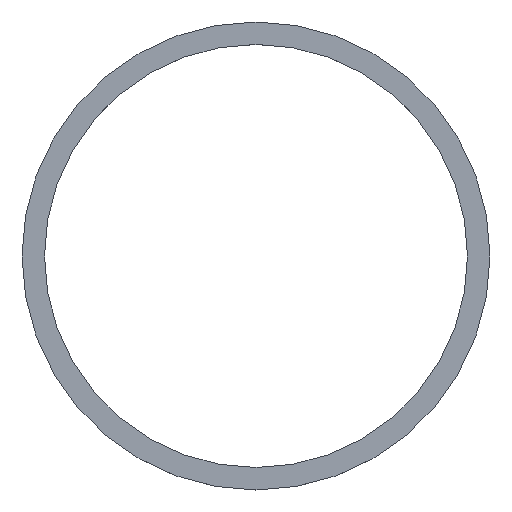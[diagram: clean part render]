
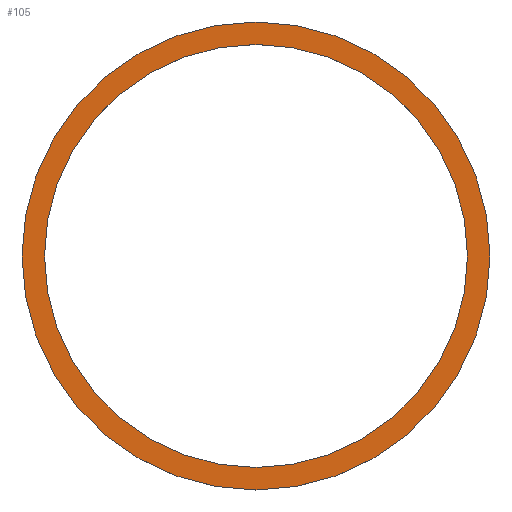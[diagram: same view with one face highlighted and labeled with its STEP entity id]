
A CAD part, top view. The second image highlights one B-rep face of the part: STEP entity #105.
In plain terms, the highlighted planar face has unit normal (0, 0, 1).
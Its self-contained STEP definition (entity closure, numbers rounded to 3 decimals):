
#21 = EDGE_CURVE('',#22,#22,#24,.T.);
#22 = VERTEX_POINT('',#23);
#23 = CARTESIAN_POINT('',(92.5,198.,76.));
#24 = SURFACE_CURVE('',#25,(#30,#42),.PCURVE_S1.);
#25 = CIRCLE('',#26,25.);
#26 = AXIS2_PLACEMENT_3D('',#27,#28,#29);
#27 = CARTESIAN_POINT('',(67.5,198.,76.));
#28 = DIRECTION('',(0.,0.,1.));
#29 = DIRECTION('',(1.,0.,-0.));
#30 = PCURVE('',#31,#36);
#31 = CYLINDRICAL_SURFACE('',#32,25.);
#32 = AXIS2_PLACEMENT_3D('',#33,#34,#35);
#33 = CARTESIAN_POINT('',(67.5,198.,75.));
#34 = DIRECTION('',(0.,0.,1.));
#35 = DIRECTION('',(1.,0.,-0.));
#36 = DEFINITIONAL_REPRESENTATION('',(#37),#41);
#37 = LINE('',#38,#39);
#38 = CARTESIAN_POINT('',(0.,1.));
#39 = VECTOR('',#40,1.);
#40 = DIRECTION('',(1.,0.));
#41 = ( GEOMETRIC_REPRESENTATION_CONTEXT(2) 
PARAMETRIC_REPRESENTATION_CONTEXT() REPRESENTATION_CONTEXT('2D SPACE',''
  ) );
#42 = PCURVE('',#43,#48);
#43 = PLANE('',#44);
#44 = AXIS2_PLACEMENT_3D('',#45,#46,#47);
#45 = CARTESIAN_POINT('',(67.5,198.,76.));
#46 = DIRECTION('',(0.,0.,1.));
#47 = DIRECTION('',(1.,0.,-0.));
#48 = DEFINITIONAL_REPRESENTATION('',(#49),#53);
#49 = CIRCLE('',#50,25.);
#50 = AXIS2_PLACEMENT_2D('',#51,#52);
#51 = CARTESIAN_POINT('',(0.,0.));
#52 = DIRECTION('',(1.,0.));
#53 = ( GEOMETRIC_REPRESENTATION_CONTEXT(2) 
PARAMETRIC_REPRESENTATION_CONTEXT() REPRESENTATION_CONTEXT('2D SPACE',''
  ) );
#105 = ADVANCED_FACE('',(#106,#109),#43,.T.);
#106 = FACE_BOUND('',#107,.T.);
#107 = EDGE_LOOP('',(#108));
#108 = ORIENTED_EDGE('',*,*,#21,.T.);
#109 = FACE_BOUND('',#110,.T.);
#110 = EDGE_LOOP('',(#111));
#111 = ORIENTED_EDGE('',*,*,#112,.F.);
#112 = EDGE_CURVE('',#113,#113,#115,.T.);
#113 = VERTEX_POINT('',#114);
#114 = CARTESIAN_POINT('',(90.1,198.,76.));
#115 = SURFACE_CURVE('',#116,(#121,#128),.PCURVE_S1.);
#116 = CIRCLE('',#117,22.6);
#117 = AXIS2_PLACEMENT_3D('',#118,#119,#120);
#118 = CARTESIAN_POINT('',(67.5,198.,76.));
#119 = DIRECTION('',(0.,0.,1.));
#120 = DIRECTION('',(1.,0.,-0.));
#121 = PCURVE('',#43,#122);
#122 = DEFINITIONAL_REPRESENTATION('',(#123),#127);
#123 = CIRCLE('',#124,22.6);
#124 = AXIS2_PLACEMENT_2D('',#125,#126);
#125 = CARTESIAN_POINT('',(0.,0.));
#126 = DIRECTION('',(1.,0.));
#127 = ( GEOMETRIC_REPRESENTATION_CONTEXT(2) 
PARAMETRIC_REPRESENTATION_CONTEXT() REPRESENTATION_CONTEXT('2D SPACE',''
  ) );
#128 = PCURVE('',#129,#134);
#129 = CYLINDRICAL_SURFACE('',#130,22.6);
#130 = AXIS2_PLACEMENT_3D('',#131,#132,#133);
#131 = CARTESIAN_POINT('',(67.5,198.,75.));
#132 = DIRECTION('',(0.,0.,1.));
#133 = DIRECTION('',(1.,0.,-0.));
#134 = DEFINITIONAL_REPRESENTATION('',(#135),#139);
#135 = LINE('',#136,#137);
#136 = CARTESIAN_POINT('',(0.,1.));
#137 = VECTOR('',#138,1.);
#138 = DIRECTION('',(1.,0.));
#139 = ( GEOMETRIC_REPRESENTATION_CONTEXT(2) 
PARAMETRIC_REPRESENTATION_CONTEXT() REPRESENTATION_CONTEXT('2D SPACE',''
  ) );
